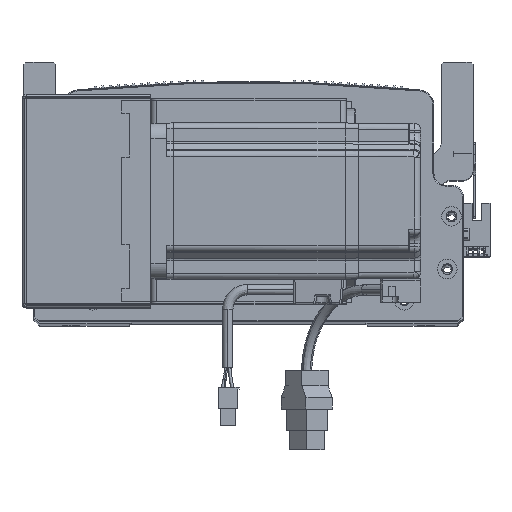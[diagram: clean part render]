
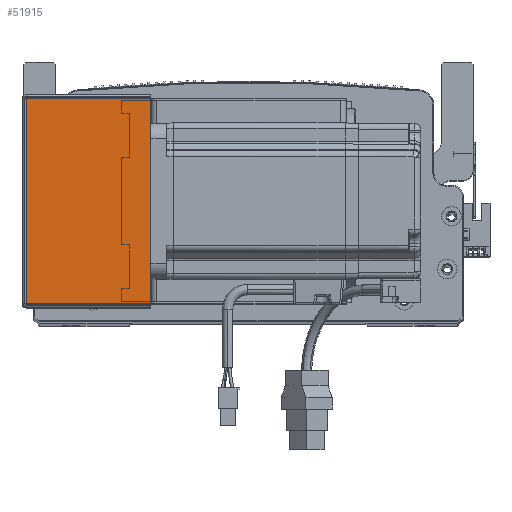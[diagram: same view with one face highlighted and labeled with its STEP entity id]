
A CAD part, top view. The second image highlights one B-rep face of the part: STEP entity #51915.
In plain terms, the highlighted planar face has unit normal (0, 0, 1) as drawn and (0, 0, -1) by its records, which use the part's own axes.
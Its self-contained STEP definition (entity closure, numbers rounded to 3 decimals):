
#7717 = LINE ( 'NONE', #65168, #72896 ) ;
#9317 = CARTESIAN_POINT ( 'NONE',  ( 0.737, 105.293, -205.5 ) ) ;
#9856 = EDGE_CURVE ( 'NONE', #37714, #21137, #47314, .T. ) ;
#11810 = CARTESIAN_POINT ( 'NONE',  ( 0., 0.707, -205.5 ) ) ;
#15847 = EDGE_CURVE ( 'NONE', #34886, #37714, #19628, .T. ) ;
#18265 = CARTESIAN_POINT ( 'NONE',  ( 0.737, 0.707, -205.5 ) ) ;
#18951 = LINE ( 'NONE', #51664, #67270 ) ;
#19628 = LINE ( 'NONE', #61047, #68922 ) ;
#19721 = PLANE ( 'NONE',  #39816 ) ;
#21137 = VERTEX_POINT ( 'NONE', #55864 ) ;
#23726 = ORIENTED_EDGE ( 'NONE', *, *, #54860, .T. ) ;
#24131 = CARTESIAN_POINT ( 'NONE',  ( 64.5, 105.293, -205.5 ) ) ;
#26032 = DIRECTION ( 'NONE',  ( 1., 0., 0. ) ) ;
#29175 = VECTOR ( 'NONE', #44004, 1000. ) ;
#32355 = DIRECTION ( 'NONE',  ( 1., 0., 0. ) ) ;
#34886 = VERTEX_POINT ( 'NONE', #9317 ) ;
#37128 = ORIENTED_EDGE ( 'NONE', *, *, #58983, .T. ) ;
#37714 = VERTEX_POINT ( 'NONE', #18265 ) ;
#38487 = DIRECTION ( 'NONE',  ( 0., -1., 0. ) ) ;
#39816 = AXIS2_PLACEMENT_3D ( 'NONE', #58814, #70891, #32355 ) ;
#41178 = EDGE_LOOP ( 'NONE', ( #64179, #23726, #37128, #71737 ) ) ;
#43060 = DIRECTION ( 'NONE',  ( 0., -1., 0. ) ) ;
#44004 = DIRECTION ( 'NONE',  ( 1., 0., 0. ) ) ;
#47314 = LINE ( 'NONE', #11810, #29175 ) ;
#51664 = CARTESIAN_POINT ( 'NONE',  ( 0., 105.293, -205.5 ) ) ;
#51915 = ADVANCED_FACE ( 'NONE', ( #72658 ), #19721, .F. ) ;
#54860 = EDGE_CURVE ( 'NONE', #34886, #70248, #18951, .T. ) ;
#55864 = CARTESIAN_POINT ( 'NONE',  ( 64.5, 0.707, -205.5 ) ) ;
#58814 = CARTESIAN_POINT ( 'NONE',  ( 0., 0., -205.5 ) ) ;
#58983 = EDGE_CURVE ( 'NONE', #70248, #21137, #7717, .T. ) ;
#61047 = CARTESIAN_POINT ( 'NONE',  ( 0.737, 0., -205.5 ) ) ;
#64179 = ORIENTED_EDGE ( 'NONE', *, *, #15847, .F. ) ;
#65168 = CARTESIAN_POINT ( 'NONE',  ( 64.5, 0., -205.5 ) ) ;
#67270 = VECTOR ( 'NONE', #26032, 1000. ) ;
#68922 = VECTOR ( 'NONE', #43060, 1000. ) ;
#70248 = VERTEX_POINT ( 'NONE', #24131 ) ;
#70891 = DIRECTION ( 'NONE',  ( 0., 0., 1. ) ) ;
#71737 = ORIENTED_EDGE ( 'NONE', *, *, #9856, .F. ) ;
#72658 = FACE_OUTER_BOUND ( 'NONE', #41178, .T. ) ;
#72896 = VECTOR ( 'NONE', #38487, 1000. ) ;
